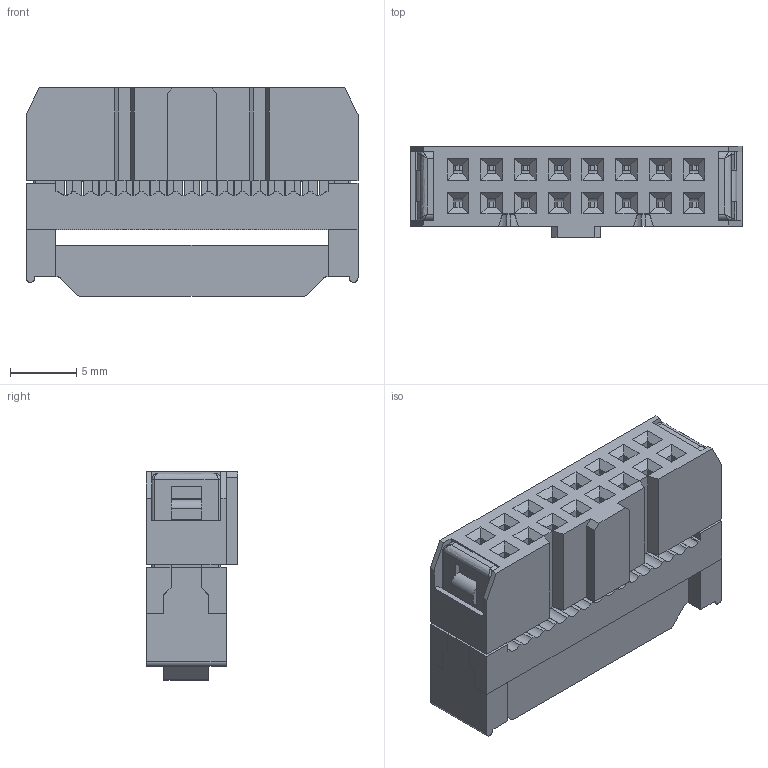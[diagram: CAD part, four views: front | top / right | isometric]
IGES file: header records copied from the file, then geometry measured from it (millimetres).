
Global section: file name: Filename.iges; native system: Open CASCADE 7.3; preprocessor: Open CASCADE IGES processor 7.3; date: 20201209.080523; units: millimetre
Bounding box: 25 x 6.86 x 15.7 mm (x, y, z)
Surface area: 3304.5 mm2 (no closed solid volume)
Topology: 0 solids, 0 shells, 1071 faces, 5954 edges, 5946 vertices
Faces by surface type: plane 812, revolution 244, extrusion 11, bspline 4
